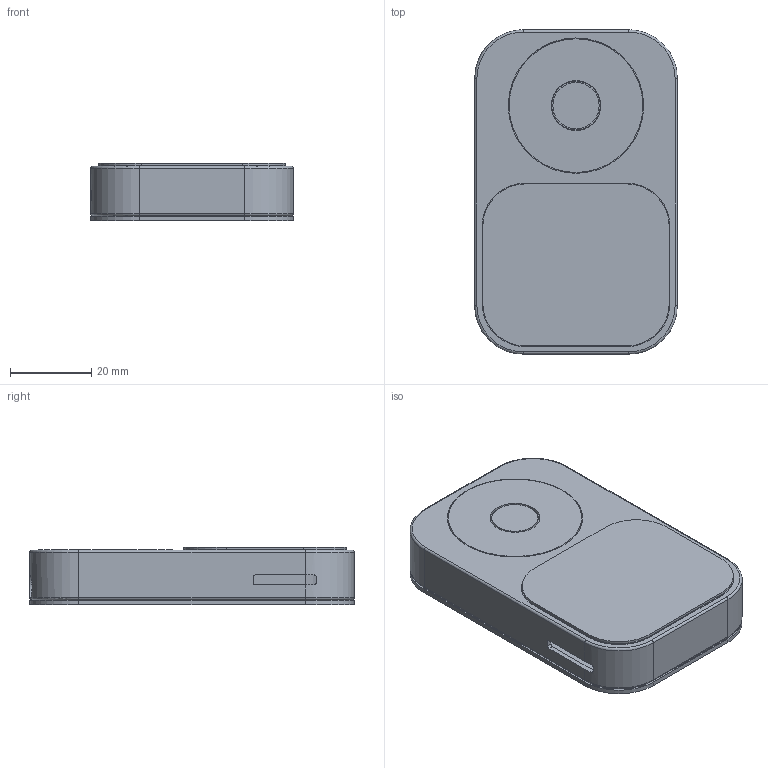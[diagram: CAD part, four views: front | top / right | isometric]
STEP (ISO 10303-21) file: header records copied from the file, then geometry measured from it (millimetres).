
FILE_DESCRIPTION(('FreeCAD Model'),'2;1');
FILE_NAME('Open CASCADE Shape Model','2026-09-21T09:26:54',('FreeCAD'),( 'FreeCAD'),'Open CASCADE STEP processor 7.8','FreeCAD','Unknown');
FILE_SCHEMA(('AUTOMOTIVE_DESIGN { 1 0 10303 214 1 1 1 1 }'));
Length unit declared in the file: millimetre
Products named in the file (1): Open CASCADE STEP translator 7.8 7
Bounding box: 50 x 80 x 14.2 mm (x, y, z)
Volume: 13706.4 mm3; surface area: 28448.7 mm2
Topology: 7 solids, 7 shells, 165 faces, 430 edges, 285 vertices
Faces by surface type: plane 83, cylinder 74, torus 8
Full cylindrical faces by diameter (mm): 1.3 x2, 1.8 x2, 3.3 x2, 8 x1, 11.4 x1, 12 x1, 12.3 x1, 13.8 x1, 33 x1, 33.4 x1
Entity records: 5329 total; most frequent: CARTESIAN_POINT 1099, DIRECTION 915, ORIENTED_EDGE 860, EDGE_CURVE 430, AXIS2_PLACEMENT_3D 331, VERTEX_POINT 285, LINE 253, VECTOR 253
